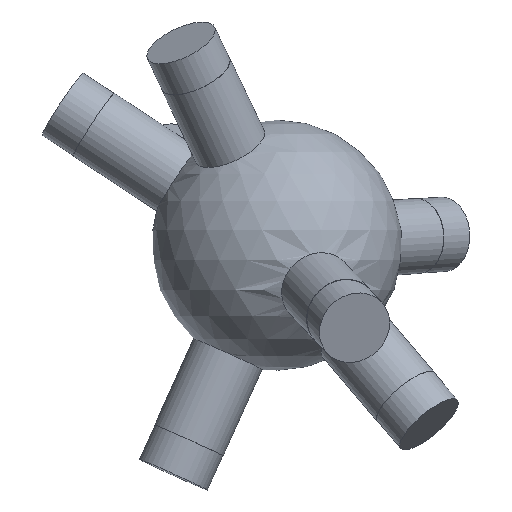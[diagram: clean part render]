
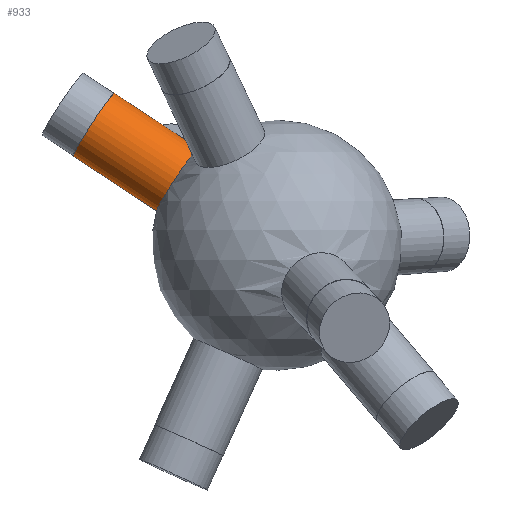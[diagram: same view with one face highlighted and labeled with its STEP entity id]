
A CAD part, left-side view. The second image highlights one B-rep face of the part: STEP entity #933.
In plain terms, the highlighted cylindrical face has radius 6 mm (diameter 12 mm), a full revolution.
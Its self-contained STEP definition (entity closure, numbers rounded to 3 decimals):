
#35 = SPHERICAL_SURFACE('',#36,20.);
#36 = AXIS2_PLACEMENT_3D('',#37,#38,#39);
#37 = CARTESIAN_POINT('',(0.,0.,0.));
#38 = DIRECTION('',(0.,0.,1.));
#39 = DIRECTION('',(1.,0.,-0.));
#430 = EDGE_CURVE('',#431,#431,#433,.T.);
#431 = VERTEX_POINT('',#432);
#432 = CARTESIAN_POINT('',(1.242,12.602,
    15.48));
#433 = SURFACE_CURVE('',#434,(#439,#508),.PCURVE_S1.);
#434 = CIRCLE('',#435,6.);
#435 = AXIS2_PLACEMENT_3D('',#436,#437,#438);
#436 = CARTESIAN_POINT('',(1.242,15.902,10.469
    ));
#437 = DIRECTION('',(0.065,0.833,0.549));
#438 = DIRECTION('',(0.,-0.55,0.835)
  );
#439 = PCURVE('',#35,#440);
#440 = DEFINITIONAL_REPRESENTATION('',(#441),#507);
#441 = B_SPLINE_CURVE_WITH_KNOTS('',8,(#442,#443,#444,#445,#446,#447,
    #448,#449,#450,#451,#452,#453,#454,#455,#456,#457,#458,#459,#460,
    #461,#462,#463,#464,#465,#466,#467,#468,#469,#470,#471,#472,#473,
    #474,#475,#476,#477,#478,#479,#480,#481,#482,#483,#484,#485,#486,
    #487,#488,#489,#490,#491,#492,#493,#494,#495,#496,#497,#498,#499,
    #500,#501,#502,#503,#504,#505,#506),.UNSPECIFIED.,.T.,.F.,(9,7,7,7,7
    ,7,7,7,7,9),(0.,0.393,1.129,1.773,
    2.901,3.746,4.381,5.332,
    5.808,6.283),.UNSPECIFIED.);
#442 = CARTESIAN_POINT('',(1.473,0.885));
#443 = CARTESIAN_POINT('',(1.449,0.884));
#444 = CARTESIAN_POINT('',(1.426,0.882));
#445 = CARTESIAN_POINT('',(1.403,0.879));
#446 = CARTESIAN_POINT('',(1.381,0.875));
#447 = CARTESIAN_POINT('',(1.36,0.87));
#448 = CARTESIAN_POINT('',(1.339,0.864));
#449 = CARTESIAN_POINT('',(1.319,0.857));
#450 = CARTESIAN_POINT('',(1.265,0.835));
#451 = CARTESIAN_POINT('',(1.233,0.817));
#452 = CARTESIAN_POINT('',(1.205,0.796));
#453 = CARTESIAN_POINT('',(1.182,0.774));
#454 = CARTESIAN_POINT('',(1.164,0.749));
#455 = CARTESIAN_POINT('',(1.149,0.724));
#456 = CARTESIAN_POINT('',(1.139,0.697));
#457 = CARTESIAN_POINT('',(1.127,0.646));
#458 = CARTESIAN_POINT('',(1.124,0.622));
#459 = CARTESIAN_POINT('',(1.124,0.598));
#460 = CARTESIAN_POINT('',(1.126,0.573));
#461 = CARTESIAN_POINT('',(1.131,0.549));
#462 = CARTESIAN_POINT('',(1.138,0.526));
#463 = CARTESIAN_POINT('',(1.147,0.503));
#464 = CARTESIAN_POINT('',(1.178,0.442));
#465 = CARTESIAN_POINT('',(1.203,0.406));
#466 = CARTESIAN_POINT('',(1.233,0.373));
#467 = CARTESIAN_POINT('',(1.267,0.344));
#468 = CARTESIAN_POINT('',(1.305,0.32));
#469 = CARTESIAN_POINT('',(1.346,0.302));
#470 = CARTESIAN_POINT('',(1.388,0.288));
#471 = CARTESIAN_POINT('',(1.464,0.276));
#472 = CARTESIAN_POINT('',(1.497,0.274));
#473 = CARTESIAN_POINT('',(1.53,0.275));
#474 = CARTESIAN_POINT('',(1.563,0.279));
#475 = CARTESIAN_POINT('',(1.596,0.287));
#476 = CARTESIAN_POINT('',(1.627,0.298));
#477 = CARTESIAN_POINT('',(1.657,0.312));
#478 = CARTESIAN_POINT('',(1.707,0.342));
#479 = CARTESIAN_POINT('',(1.727,0.356));
#480 = CARTESIAN_POINT('',(1.746,0.372));
#481 = CARTESIAN_POINT('',(1.764,0.389));
#482 = CARTESIAN_POINT('',(1.781,0.408));
#483 = CARTESIAN_POINT('',(1.796,0.427));
#484 = CARTESIAN_POINT('',(1.809,0.448));
#485 = CARTESIAN_POINT('',(1.839,0.501));
#486 = CARTESIAN_POINT('',(1.852,0.535));
#487 = CARTESIAN_POINT('',(1.861,0.57));
#488 = CARTESIAN_POINT('',(1.865,0.606));
#489 = CARTESIAN_POINT('',(1.864,0.643));
#490 = CARTESIAN_POINT('',(1.856,0.678));
#491 = CARTESIAN_POINT('',(1.842,0.713));
#492 = CARTESIAN_POINT('',(1.81,0.761));
#493 = CARTESIAN_POINT('',(1.797,0.776));
#494 = CARTESIAN_POINT('',(1.783,0.791));
#495 = CARTESIAN_POINT('',(1.767,0.805));
#496 = CARTESIAN_POINT('',(1.749,0.818));
#497 = CARTESIAN_POINT('',(1.729,0.83));
#498 = CARTESIAN_POINT('',(1.708,0.84));
#499 = CARTESIAN_POINT('',(1.662,0.859));
#500 = CARTESIAN_POINT('',(1.637,0.867));
#501 = CARTESIAN_POINT('',(1.612,0.874));
#502 = CARTESIAN_POINT('',(1.585,0.88));
#503 = CARTESIAN_POINT('',(1.557,0.883));
#504 = CARTESIAN_POINT('',(1.529,0.886));
#505 = CARTESIAN_POINT('',(1.501,0.886));
#506 = CARTESIAN_POINT('',(1.473,0.885));
#507 = ( GEOMETRIC_REPRESENTATION_CONTEXT(2) 
PARAMETRIC_REPRESENTATION_CONTEXT() REPRESENTATION_CONTEXT('2D SPACE',''
  ) );
#508 = PCURVE('',#509,#514);
#509 = CYLINDRICAL_SURFACE('',#510,6.);
#510 = AXIS2_PLACEMENT_3D('',#511,#512,#513);
#511 = CARTESIAN_POINT('',(0.,0.,0.));
#512 = DIRECTION('',(0.065,0.833,0.549));
#513 = DIRECTION('',(0.,-0.55,0.835)
  );
#514 = DEFINITIONAL_REPRESENTATION('',(#515),#519);
#515 = LINE('',#516,#517);
#516 = CARTESIAN_POINT('',(0.,19.079));
#517 = VECTOR('',#518,1.);
#518 = DIRECTION('',(1.,0.));
#519 = ( GEOMETRIC_REPRESENTATION_CONTEXT(2) 
PARAMETRIC_REPRESENTATION_CONTEXT() REPRESENTATION_CONTEXT('2D SPACE',''
  ) );
#933 = ADVANCED_FACE('',(#934),#509,.T.);
#934 = FACE_BOUND('',#935,.T.);
#935 = EDGE_LOOP('',(#936,#959,#986,#987));
#936 = ORIENTED_EDGE('',*,*,#937,.T.);
#937 = EDGE_CURVE('',#431,#938,#940,.T.);
#938 = VERTEX_POINT('',#939);
#939 = CARTESIAN_POINT('',(2.285,25.949,
    24.267));
#940 = SEAM_CURVE('',#941,(#945,#952),.PCURVE_S1.);
#941 = LINE('',#942,#943);
#942 = CARTESIAN_POINT('',(0.,-3.299,
    5.011));
#943 = VECTOR('',#944,1.);
#944 = DIRECTION('',(0.065,0.833,0.549));
#945 = PCURVE('',#509,#946);
#946 = DEFINITIONAL_REPRESENTATION('',(#947),#951);
#947 = LINE('',#948,#949);
#948 = CARTESIAN_POINT('',(6.283,-0.));
#949 = VECTOR('',#950,1.);
#950 = DIRECTION('',(0.,1.));
#951 = ( GEOMETRIC_REPRESENTATION_CONTEXT(2) 
PARAMETRIC_REPRESENTATION_CONTEXT() REPRESENTATION_CONTEXT('2D SPACE',''
  ) );
#952 = PCURVE('',#509,#953);
#953 = DEFINITIONAL_REPRESENTATION('',(#954),#958);
#954 = LINE('',#955,#956);
#955 = CARTESIAN_POINT('',(0.,-0.));
#956 = VECTOR('',#957,1.);
#957 = DIRECTION('',(0.,1.));
#958 = ( GEOMETRIC_REPRESENTATION_CONTEXT(2) 
PARAMETRIC_REPRESENTATION_CONTEXT() REPRESENTATION_CONTEXT('2D SPACE',''
  ) );
#959 = ORIENTED_EDGE('',*,*,#960,.F.);
#960 = EDGE_CURVE('',#938,#938,#961,.T.);
#961 = SURFACE_CURVE('',#962,(#967,#974),.PCURVE_S1.);
#962 = CIRCLE('',#963,6.);
#963 = AXIS2_PLACEMENT_3D('',#964,#965,#966);
#964 = CARTESIAN_POINT('',(2.285,29.248,
    19.255));
#965 = DIRECTION('',(0.065,0.833,0.549));
#966 = DIRECTION('',(0.,-0.55,0.835)
  );
#967 = PCURVE('',#509,#968);
#968 = DEFINITIONAL_REPRESENTATION('',(#969),#973);
#969 = LINE('',#970,#971);
#970 = CARTESIAN_POINT('',(0.,35.092));
#971 = VECTOR('',#972,1.);
#972 = DIRECTION('',(1.,0.));
#973 = ( GEOMETRIC_REPRESENTATION_CONTEXT(2) 
PARAMETRIC_REPRESENTATION_CONTEXT() REPRESENTATION_CONTEXT('2D SPACE',''
  ) );
#974 = PCURVE('',#975,#980);
#975 = PLANE('',#976);
#976 = AXIS2_PLACEMENT_3D('',#977,#978,#979);
#977 = CARTESIAN_POINT('',(2.285,29.248,
    19.255));
#978 = DIRECTION('',(0.065,0.833,0.549));
#979 = DIRECTION('',(0.,-0.55,0.835)
  );
#980 = DEFINITIONAL_REPRESENTATION('',(#981),#985);
#981 = CIRCLE('',#982,6.);
#982 = AXIS2_PLACEMENT_2D('',#983,#984);
#983 = CARTESIAN_POINT('',(0.,0.));
#984 = DIRECTION('',(1.,0.));
#985 = ( GEOMETRIC_REPRESENTATION_CONTEXT(2) 
PARAMETRIC_REPRESENTATION_CONTEXT() REPRESENTATION_CONTEXT('2D SPACE',''
  ) );
#986 = ORIENTED_EDGE('',*,*,#937,.F.);
#987 = ORIENTED_EDGE('',*,*,#430,.T.);
